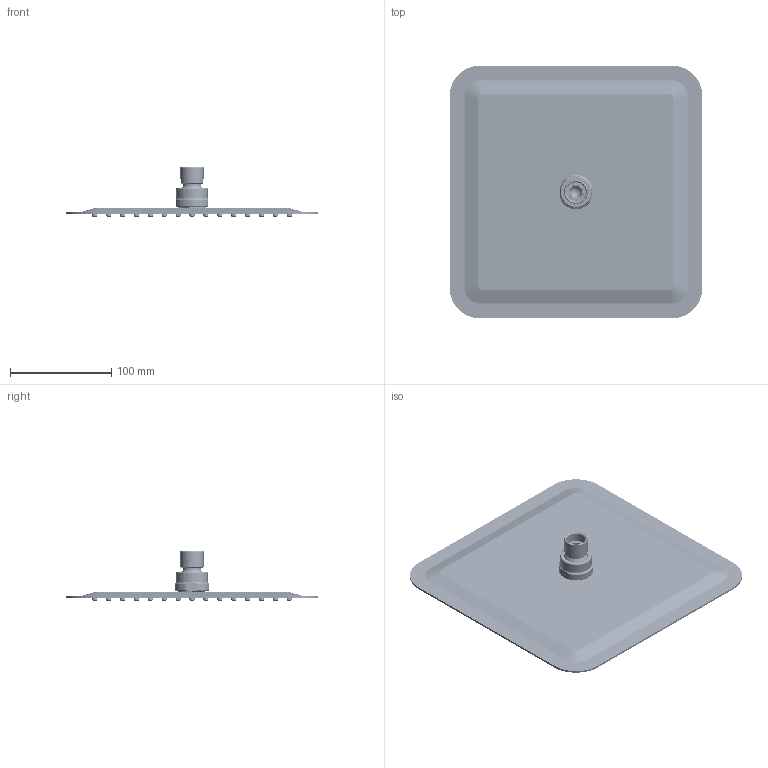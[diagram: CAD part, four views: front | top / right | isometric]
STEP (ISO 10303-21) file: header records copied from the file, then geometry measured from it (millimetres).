
FILE_DESCRIPTION(/* description */ (''),/* implementation_level */ '2;1');
FILE_NAME(/* name */ 'c:\worker\convert-fusion-r05\tmp\job-1\17\output\files\e151f2b9-d621-4e93-95e9-e3834a836316\b521b51c-df0b-4cef-ad88-3c071075977e.stp',/* time_stamp */ '2020-06-30T09:22:59+00:00',/* author */ (''),/* organization */ (''),/* preprocessor_version */ 'ST-DEVELOPER v18.1',/* originating_system */ 'Autodesk Translation Framework v9.3.0.1241',/* authorisation */ '');
FILE_SCHEMA (('AUTOMOTIVE_DESIGN { 1 0 10303 214 3 1 1 }'));
Products named in the file (1): !WGU225CR
Bounding box: 250 x 250 x 48.9 mm (x, y, z)
Volume: 183930.4 mm3; surface area: 369226.5 mm2
Topology: 10 solids, 10 shells, 2161 faces, 4725 edges, 2984 vertices
Faces by surface type: torus 723, cylinder 602, plane 520, cone 264, bspline 49, sphere 3
Full cylindrical faces by diameter (mm): 1.2 x112, 3.2 x1, 4 x225, 5 x56, 5.003 x56, 8 x85, 11.8 x1, 12.5 x1, 13 x1, 14 x1, 14.7 x1, 18 x1, 19 x1, 19.1 x1, 22 x1, 23 x1, 23.6 x2, 23.8 x1, 25 x2, 26 x2, 26.75 x1, 30 x1, 31 x1
Entity records: 74456 total; most frequent: CARTESIAN_POINT 23297, DIRECTION 12212, ORIENTED_EDGE 9444, AXIS2_PLACEMENT_3D 5576, EDGE_CURVE 4722, CIRCLE 3463, EDGE_LOOP 3032, VERTEX_POINT 2984
